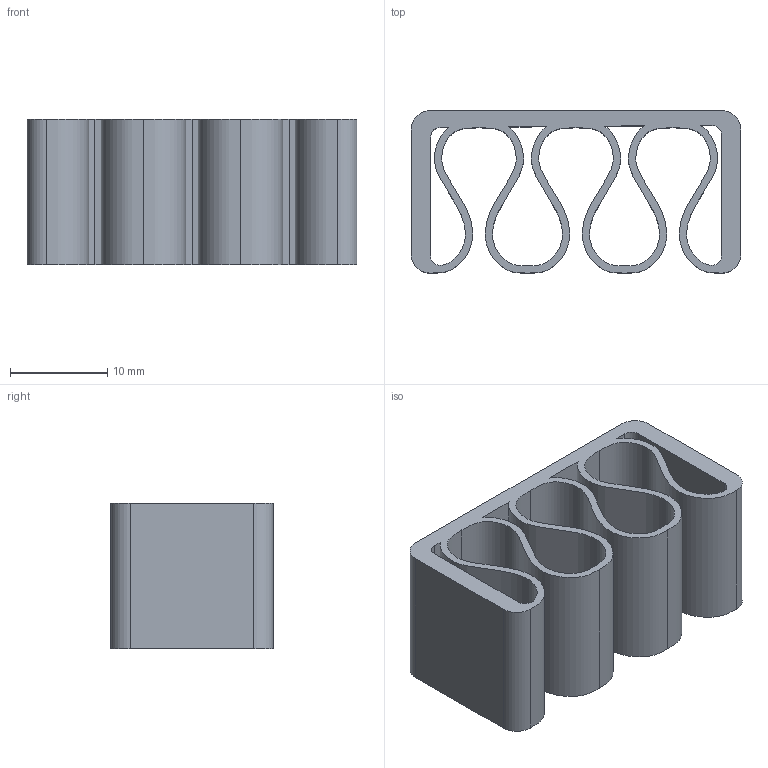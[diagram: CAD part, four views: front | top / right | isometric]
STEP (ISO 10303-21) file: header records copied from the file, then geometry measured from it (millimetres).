
FILE_DESCRIPTION(/* description */ ('Unknown','CAx-IF Rec.Pracs.---Representation and Presentation of Product Manufacturing Information (PMI)---4.0---2014-10-13','CAx-IF Rec.Pracs.---3D Tessellated Geometry---0.4---2014-09-14','2;1'),/* implementation_level */ '2;1');
FILE_NAME(/* name */ 'UniversalCableHolder_3_slots',/* time_stamp */ '2025-01-02T20:06:36+01:00',/* author */ ('Unknown'),/* organization */ ('Unknown'),/* preprocessor_version */ 'ST-DEVELOPER v19.4',/* originating_system */ 'Solid Edge',/* authorisation */ 'Unknown');
FILE_SCHEMA (('AP242_MANAGED_MODEL_BASED_3D_ENGINEERING_MIM_LF { 1 0 10303 442 1 1 4 }'));
Length unit declared in the file: millimetre
Products named in the file (1): UniversalCableHolder_5_slots
Bounding box: 34 x 16.75 x 15 mm (x, y, z)
Volume: 2980.5 mm3; surface area: 5499.7 mm2
Topology: 1 solids, 1 shells, 31 faces, 87 edges, 58 vertices
Faces by surface type: bspline 12, plane 11, cylinder 8
Entity records: 1695 total; most frequent: CARTESIAN_POINT 916, ORIENTED_EDGE 174, DIRECTION 121, EDGE_CURVE 87, VERTEX_POINT 58, LINE 47, VECTOR 47, EDGE_LOOP 39
